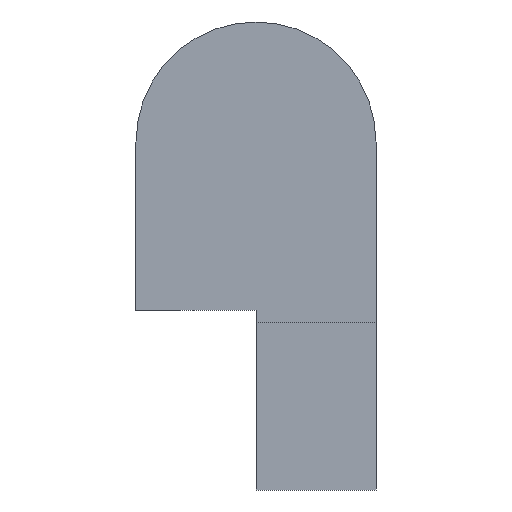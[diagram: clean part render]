
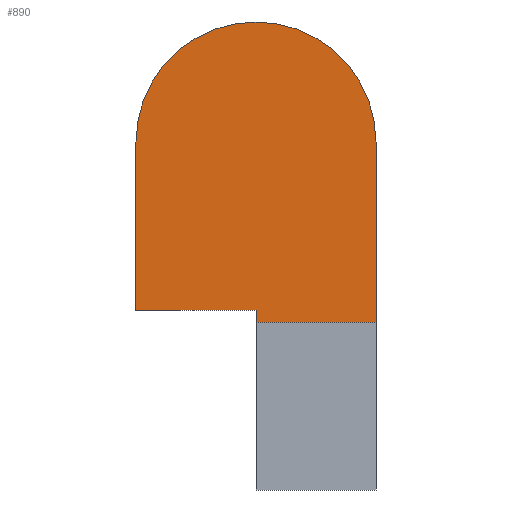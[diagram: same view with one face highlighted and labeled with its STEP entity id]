
A CAD part, front view. The second image highlights one B-rep face of the part: STEP entity #890.
In plain terms, the highlighted planar face has unit normal (0, -1, 0).
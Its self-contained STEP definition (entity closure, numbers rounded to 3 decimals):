
#34 = CARTESIAN_POINT ( 'NONE',  ( 0., 0., -50. ) ) ;
#40 = VERTEX_POINT ( 'NONE', #334 ) ;
#56 = DIRECTION ( 'NONE',  ( 0., 0., 1. ) ) ;
#66 = DIRECTION ( 'NONE',  ( 0., 0., -1. ) ) ;
#95 = EDGE_LOOP ( 'NONE', ( #767, #274, #547, #345, #479, #706, #459 ) ) ;
#101 = LINE ( 'NONE', #124, #690 ) ;
#102 = DIRECTION ( 'NONE',  ( 0., -1., 0. ) ) ;
#124 = CARTESIAN_POINT ( 'NONE',  ( 0., 0., 0. ) ) ;
#126 = DIRECTION ( 'NONE',  ( 0., 1., 0. ) ) ;
#178 = CARTESIAN_POINT ( 'NONE',  ( 50., 0., -50. ) ) ;
#182 = VERTEX_POINT ( 'NONE', #776 ) ;
#201 = DIRECTION ( 'NONE',  ( 1., 0., 0. ) ) ;
#246 = DIRECTION ( 'NONE',  ( 0., 0., -1. ) ) ;
#247 = VERTEX_POINT ( 'NONE', #846 ) ;
#269 = CARTESIAN_POINT ( 'NONE',  ( 100., 0., 0. ) ) ;
#274 = ORIENTED_EDGE ( 'NONE', *, *, #439, .T. ) ;
#289 = VERTEX_POINT ( 'NONE', #34 ) ;
#324 = PLANE ( 'NONE',  #396 ) ;
#326 = EDGE_CURVE ( 'NONE', #359, #247, #502, .T. ) ;
#334 = CARTESIAN_POINT ( 'NONE',  ( 0., 0., -120. ) ) ;
#345 = ORIENTED_EDGE ( 'NONE', *, *, #862, .F. ) ;
#359 = VERTEX_POINT ( 'NONE', #785 ) ;
#386 = AXIS2_PLACEMENT_3D ( 'NONE', #515, #102, #871 ) ;
#395 = EDGE_CURVE ( 'NONE', #247, #289, #866, .T. ) ;
#396 = AXIS2_PLACEMENT_3D ( 'NONE', #892, #126, #56 ) ;
#439 = EDGE_CURVE ( 'NONE', #182, #843, #562, .T. ) ;
#440 = VECTOR ( 'NONE', #201, 1000. ) ;
#459 = ORIENTED_EDGE ( 'NONE', *, *, #771, .T. ) ;
#462 = EDGE_CURVE ( 'NONE', #649, #843, #814, .T. ) ;
#479 = ORIENTED_EDGE ( 'NONE', *, *, #326, .T. ) ;
#498 = AXIS2_PLACEMENT_3D ( 'NONE', #178, #518, #506 ) ;
#502 = CIRCLE ( 'NONE', #498, 50. ) ;
#506 = DIRECTION ( 'NONE',  ( 0., 0., 1. ) ) ;
#507 = CARTESIAN_POINT ( 'NONE',  ( 100., 0., -125. ) ) ;
#515 = CARTESIAN_POINT ( 'NONE',  ( 50., 0., -50. ) ) ;
#518 = DIRECTION ( 'NONE',  ( 0., -1., 0. ) ) ;
#522 = CARTESIAN_POINT ( 'NONE',  ( 50., 0., -125. ) ) ;
#524 = VECTOR ( 'NONE', #759, 1000. ) ;
#536 = VECTOR ( 'NONE', #246, 1000. ) ;
#547 = ORIENTED_EDGE ( 'NONE', *, *, #462, .F. ) ;
#551 = CARTESIAN_POINT ( 'NONE',  ( 100., 0., -125. ) ) ;
#562 = LINE ( 'NONE', #798, #536 ) ;
#622 = LINE ( 'NONE', #891, #440 ) ;
#649 = VERTEX_POINT ( 'NONE', #507 ) ;
#657 = VECTOR ( 'NONE', #66, 1000. ) ;
#665 = DIRECTION ( 'NONE',  ( 0., 0., -1. ) ) ;
#690 = VECTOR ( 'NONE', #665, 1000. ) ;
#706 = ORIENTED_EDGE ( 'NONE', *, *, #395, .T. ) ;
#738 = LINE ( 'NONE', #269, #657 ) ;
#759 = DIRECTION ( 'NONE',  ( -1., 0., 0. ) ) ;
#764 = FACE_OUTER_BOUND ( 'NONE', #95, .T. ) ;
#767 = ORIENTED_EDGE ( 'NONE', *, *, #903, .T. ) ;
#771 = EDGE_CURVE ( 'NONE', #289, #40, #101, .T. ) ;
#776 = CARTESIAN_POINT ( 'NONE',  ( 50., 0., -120. ) ) ;
#785 = CARTESIAN_POINT ( 'NONE',  ( 100., 0., -50. ) ) ;
#798 = CARTESIAN_POINT ( 'NONE',  ( 50., 0., -195. ) ) ;
#814 = LINE ( 'NONE', #551, #524 ) ;
#843 = VERTEX_POINT ( 'NONE', #522 ) ;
#846 = CARTESIAN_POINT ( 'NONE',  ( 50., 0., 0. ) ) ;
#862 = EDGE_CURVE ( 'NONE', #359, #649, #738, .T. ) ;
#866 = CIRCLE ( 'NONE', #386, 50. ) ;
#871 = DIRECTION ( 'NONE',  ( 0., 0., 1. ) ) ;
#890 = ADVANCED_FACE ( 'NONE', ( #764 ), #324, .F. ) ;
#891 = CARTESIAN_POINT ( 'NONE',  ( 0., 0., -120. ) ) ;
#892 = CARTESIAN_POINT ( 'NONE',  ( 100., 0., 0. ) ) ;
#903 = EDGE_CURVE ( 'NONE', #40, #182, #622, .T. ) ;
